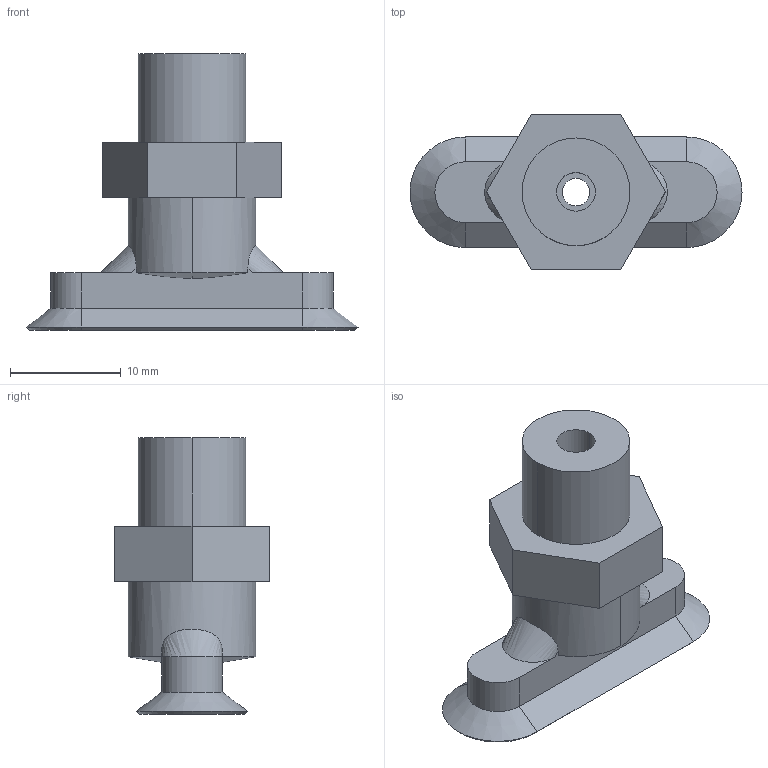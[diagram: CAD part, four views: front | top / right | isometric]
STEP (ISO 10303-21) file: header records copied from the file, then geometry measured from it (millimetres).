
FILE_DESCRIPTION(('STEP AP214'),'1');
FILE_NAME('10_01_05_00410.stp','2021-01-28T16:52:15',('TraceParts'),('TraceParts S.A.'),'Spatial InterOp 3D',' ',' ');
FILE_SCHEMA(('AUTOMOTIVE_DESIGN { 1 0 10303 214 1 1 1 1 }'));
Length unit declared in the file: millimetre
Products named in the file (1): 10_01_05_00410
Bounding box: 30 x 14 x 25 mm (x, y, z)
Volume: 2594.7 mm3; surface area: 2028.4 mm2
Topology: 1 solids, 2 shells, 48 faces, 112 edges, 70 vertices
Faces by surface type: plane 22, cone 12, cylinder 12, bspline 2
Entity records: 1855 total; most frequent: CARTESIAN_POINT 329, DIRECTION 238, ORIENTED_EDGE 224, EDGE_CURVE 112, AXIS2_PLACEMENT_3D 85, VERTEX_POINT 70, LINE 68, VECTOR 68
